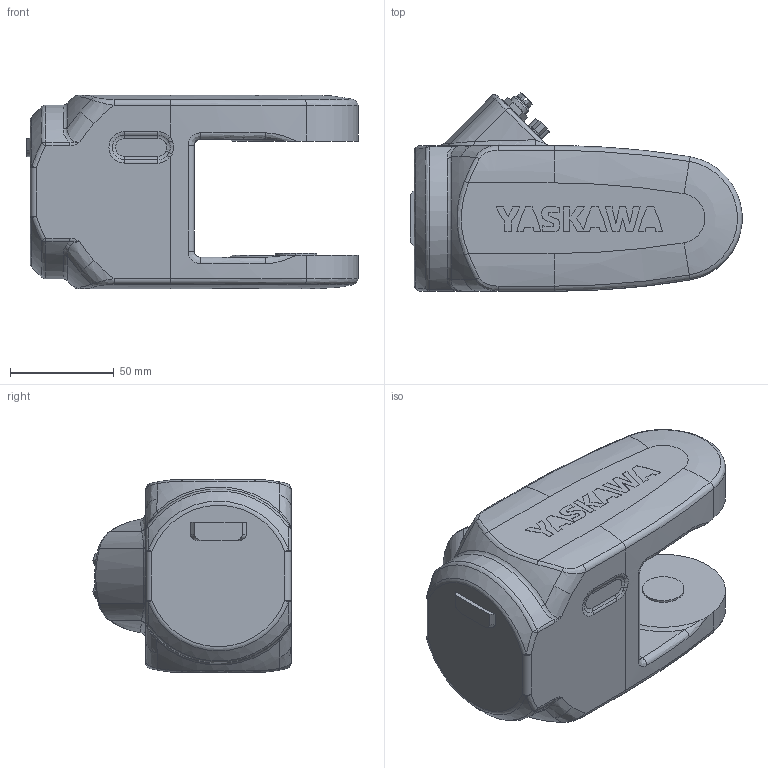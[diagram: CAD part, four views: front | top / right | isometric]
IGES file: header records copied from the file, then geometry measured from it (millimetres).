
Start section:  PTC IGES file: r_axis.igs
Global section: file name: r_axis.igs; native system: Creo Parametric by Parametric Technology Corporation; preprocessor: 2014000; author: Miyoshi_Nozomi; organization: Unknown; date: 20170420.143903; units: millimetre
Bounding box: 159.9 x 95.45 x 93.2 mm (x, y, z)
Volume: 672578.5 mm3; surface area: 59146.6 mm2
Topology: 1 solids, 1 shells, 464 faces, 1162 edges, 726 vertices
Faces by surface type: bspline 191, extrusion 144, revolution 129
